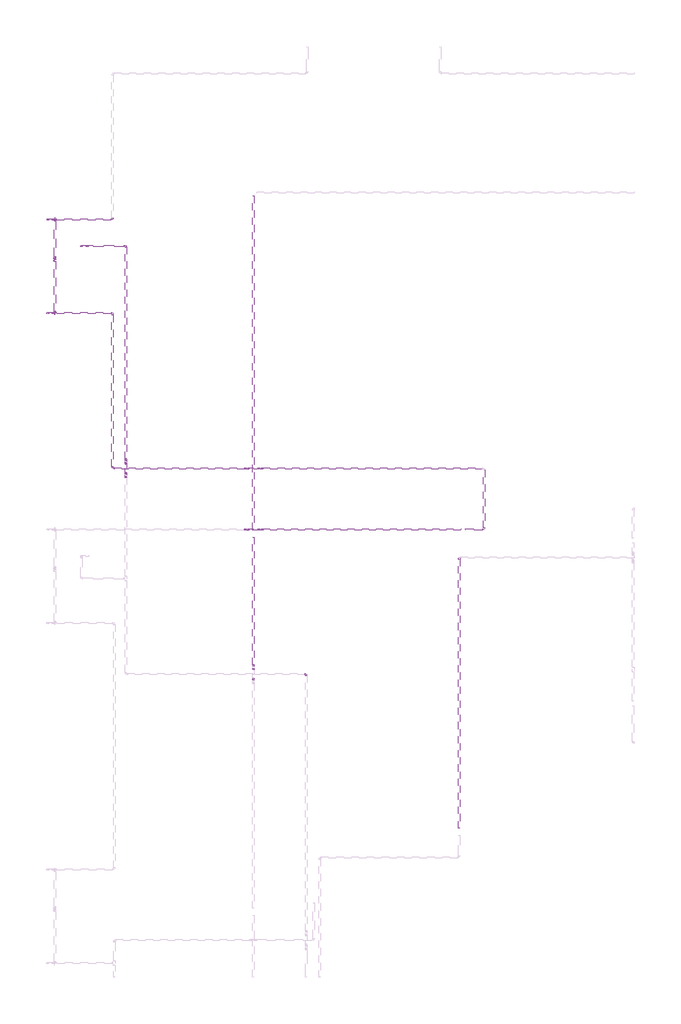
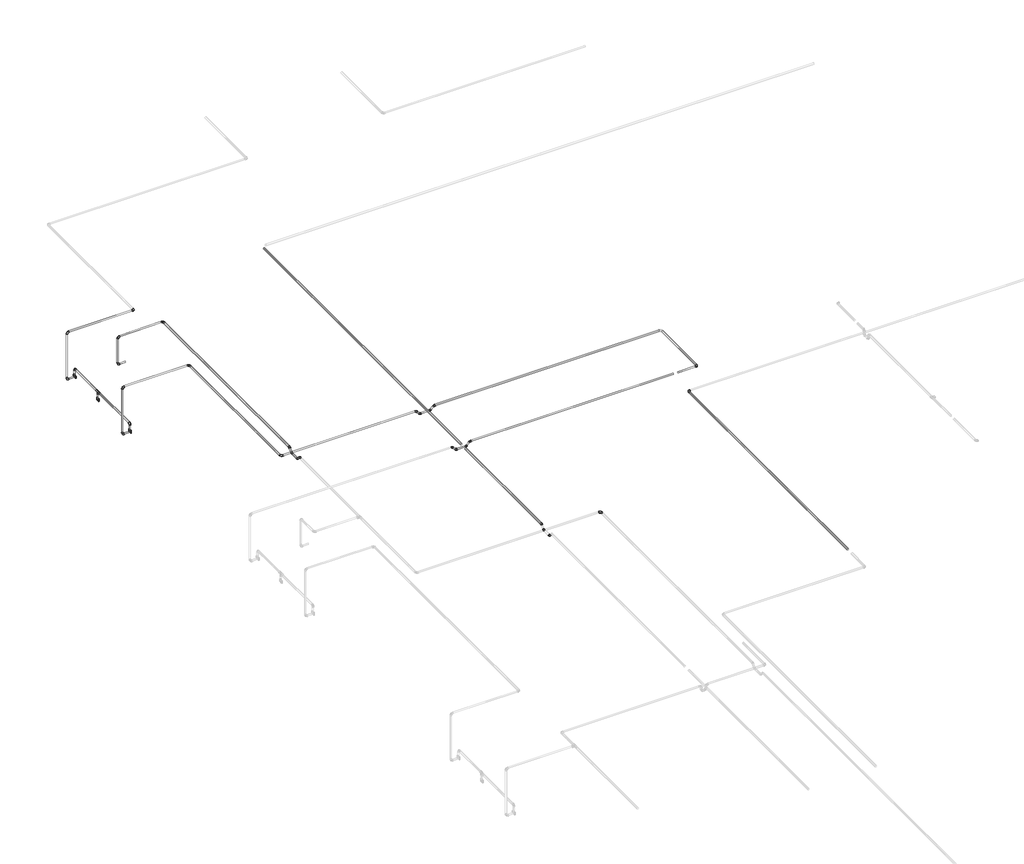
# One storey, part 17 of 40: 33 cable carrier segments, 31 cable carrier fittings, 3 electric appliances.
"""IFC4 building model written with IfcOpenShell, lengths in millimetres."""

from ifc_helpers import new_model, si_unit, point, frame, frame_2d, origin, place, context, project, spatial, circle_curve, trimmed, segment, composite_curve, outline, extrude, transform, mapped, element, save
from ifc_brep_helpers import plane_surface, cylinder_surface, advanced_brep
from components import cable_carrier_fitting_69f1a801, cable_carrier_fitting_8122f9af, cable_carrier_fitting_baf4b435, cable_carrier_fitting_96c62671, cable_carrier_fitting_f3a31543, cable_carrier_fitting_99456837, cable_carrier_fitting_8fd13dfc, electric_appliance_5961a143

model = new_model("IFC4")

# Units and contexts
model_context = context("Model", 3, world=origin())
ifc_project = project(units=[si_unit("LENGTHUNIT", "METRE", prefix="MILLI")], contexts=[model_context])

# Site, building, storey
site = spatial("IfcSite", under=ifc_project)
building = spatial("IfcBuilding", under=site)
storey = spatial("IfcBuildingStorey", under=building, Name="1 этаж", Elevation=0.0)

# Cable carrier fittings
placement = place(None, origin())
cable_carrier_fitting_shape = cable_carrier_fitting_69f1a801(model_context)
element("IfcCableCarrierFitting", 1, ObjectType="ADSK_Поворот_Минимальный размер : Неспецифицируемый", at=placement, inside=storey, context=model_context, shape_type="MappedRepresentation", body=[
    mapped(cable_carrier_fitting_shape, transform((-32867.3240048, 15147.1369864, 3189.9844044), x_axis=(-0.9999999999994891, 0.0, 1.0109368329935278e-06), y_axis=(0.0, -1.0000000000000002, 0.0), z_axis=(1.0109368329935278e-06, 0.0, 0.9999999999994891))),
])
element("IfcCableCarrierFitting", 2, ObjectType="ADSK_Поворот_Минимальный размер : Неспецифицируемый", at=placement, inside=storey, context=model_context, shape_type="MappedRepresentation", body=[
    mapped(cable_carrier_fitting_shape, transform((-38386.5238077, 18424.6370105, 3187.0), x_axis=(0.0, 0.0, 1.0), y_axis=(1.0, 0.0, 0.0), z_axis=(0.0, 1.0, 0.0))),
])
element("IfcCableCarrierFitting", 3, ObjectType="ADSK_Поворот_Минимальный размер : Неспецифицируемый", at=placement, inside=storey, context=model_context, shape_type="MappedRepresentation", body=[
    mapped(cable_carrier_fitting_shape, transform((-38286.3240021, 18424.6370105, 2650.0), x_axis=(0.0, -1.0, 0.0), y_axis=(0.0, 0.0, -1.0), z_axis=(1.0, 0.0, 0.0))),
])
element("IfcCableCarrierFitting", 4, ObjectType="ADSK_Поворот_Минимальный размер : Неспецифицируемый", at=placement, inside=storey, context=model_context, shape_type="MappedRepresentation", body=[
    mapped(cable_carrier_fitting_shape, transform((-38386.5238077, 18424.6370105, 2534.0911237), x_axis=(0.0, 0.0, -1.0), y_axis=(1.0, 0.0, 0.0), z_axis=(0.0, -1.0, 0.0))),
])
element("IfcCableCarrierFitting", 5, ObjectType="ADSK_Поворот_Минимальный размер : Неспецифицируемый", at=placement, inside=storey, context=model_context, shape_type="MappedRepresentation", body=[
    mapped(cable_carrier_fitting_shape, transform((-32530.276993, 15526.1370105, 3187.0), x_axis=(1.0, 0.0, 0.0), y_axis=(0.0, 1.0, 0.0), z_axis=(0.0, 0.0, 1.0))),
])
element("IfcCableCarrierFitting", 6, ObjectType="ADSK_Поворот_Минимальный размер : Неспецифицируемый", at=placement, inside=storey, context=model_context, shape_type="MappedRepresentation", body=[
    mapped(cable_carrier_fitting_shape, transform((-38386.5238077, 19678.6370105, 2534.0911237), x_axis=(0.0, 0.0, -1.0), y_axis=(1.0, 0.0, 0.0), z_axis=(0.0, -1.0, 0.0))),
])
element("IfcCableCarrierFitting", 7, ObjectType="ADSK_Поворот_Минимальный размер : Неспецифицируемый", at=placement, inside=storey, context=model_context, shape_type="MappedRepresentation", body=[
    mapped(cable_carrier_fitting_shape, transform((-38286.3240021, 19678.6370105, 2650.0), x_axis=(0.0, 1.0, 0.0), y_axis=(0.0, 0.0, -1.0), z_axis=(-1.0, 0.0, 0.0))),
])
element("IfcCableCarrierFitting", 8, ObjectType="ADSK_Поворот_Минимальный размер : Неспецифицируемый", at=placement, inside=storey, context=model_context, shape_type="MappedRepresentation", body=[
    mapped(cable_carrier_fitting_shape, transform((-37929.5238077, 19319.6370105, 2797.4861504), x_axis=(-1.0, 0.0, 0.0), y_axis=(0.0, 0.0, 1.0), z_axis=(0.0, 1.0, 0.0))),
])
element("IfcCableCarrierFitting", 9, ObjectType="ADSK_Поворот_Минимальный размер : Неспецифицируемый", at=placement, inside=storey, context=model_context, shape_type="MappedRepresentation", body=[
    mapped(cable_carrier_fitting_shape, transform((-37929.5238077, 19319.6370105, 3180.0), x_axis=(0.0, 0.0, 1.0), y_axis=(0.9999603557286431, 0.00890432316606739, 0.0), z_axis=(-0.00890432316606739, 0.9999603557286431, 0.0))),
])
element("IfcCableCarrierFitting", 10, ObjectType="ADSK_Поворот_Минимальный размер : Неспецифицируемый", at=placement, inside=storey, context=model_context, shape_type="MappedRepresentation", body=[
    mapped(cable_carrier_fitting_shape, transform((-34914.8240021, 13587.1370105, 3180.0), x_axis=(0.0, 1.0, 0.0), y_axis=(-1.0, 0.0, 0.0), z_axis=(0.0, 0.0, 1.0))),
])
element("IfcCableCarrierFitting", 11, ObjectType="ADSK_Поворот_Минимальный размер : Неспецифицируемый", at=placement, inside=storey, context=model_context, shape_type="MappedRepresentation", body=[
    mapped(cable_carrier_fitting_shape, transform((-37510.3240021, 19678.6370105, 3187.0), x_axis=(1.0, 0.0, 0.0), y_axis=(0.0, 1.0, 0.0), z_axis=(0.0, 0.0, 1.0))),
])
element("IfcCableCarrierFitting", 12, ObjectType="ADSK_Поворот_Минимальный размер : Неспецифицируемый", at=placement, inside=storey, context=model_context, shape_type="MappedRepresentation", body=[
    mapped(cable_carrier_fitting_shape, transform((-38386.5238077, 19678.6370105, 3187.0), x_axis=(0.0, 0.0, 1.0), y_axis=(1.0, 0.0, 0.0), z_axis=(0.0, 1.0, 0.0))),
])
element("IfcCableCarrierFitting", 13, ObjectType="ADSK_Поворот_Минимальный размер : Неспецифицируемый", at=placement, inside=storey, context=model_context, shape_type="MappedRepresentation", body=[
    mapped(cable_carrier_fitting_shape, transform((-37510.3240021, 18424.6370105, 3187.0), x_axis=(0.0, 1.0, 0.0), y_axis=(-1.0, 0.0, 0.0), z_axis=(0.0, 0.0, 1.0))),
])
element("IfcCableCarrierFitting", 14, ObjectType="ADSK_Поворот_Минимальный размер : Неспецифицируемый", at=placement, inside=storey, context=model_context, shape_type="MappedRepresentation", body=[
    mapped(cable_carrier_fitting_shape, transform((-37510.3240021, 16343.9228593, 3187.0), x_axis=(0.0, -1.0, 0.0), y_axis=(1.0, 0.0, 0.0), z_axis=(0.0, 0.0, 1.0))),
])
cable_carrier_fitting_2_shape = cable_carrier_fitting_8122f9af(model_context)
element("IfcCableCarrierFitting", 15, ObjectType="ADSK_Поворот_Минимальный размер : Неспецифицируемый", at=placement, inside=storey, context=model_context, shape_type="MappedRepresentation", body=[
    mapped(cable_carrier_fitting_2_shape, transform((-37332.3673182, 16410.4951305, 3130.0), x_axis=(0.0, -0.7071067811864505, -0.7071067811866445), y_axis=(0.0, -0.7071067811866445, 0.7071067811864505), z_axis=(-1.0, 0.0, 0.0))),
])
element("IfcCableCarrierFitting", 16, ObjectType="ADSK_Поворот_Минимальный размер : Неспецифицируемый", at=placement, inside=storey, context=model_context, shape_type="MappedRepresentation", body=[
    mapped(cable_carrier_fitting_2_shape, transform((-37332.3673182, 16277.350588, 3130.0), x_axis=(0.0, -1.0, 0.0), y_axis=(0.0, 0.0, 1.0), z_axis=(-1.0, 0.0, 0.0))),
])
element("IfcCableCarrierFitting", 17, ObjectType="ADSK_Поворот_Минимальный размер : Неспецифицируемый", at=placement, inside=storey, context=model_context, shape_type="MappedRepresentation", body=[
    mapped(cable_carrier_fitting_2_shape, transform((-37332.3673182, 16227.350588, 3180.0), x_axis=(0.0, -0.7071067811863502, 0.7071067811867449), y_axis=(0.0, -0.7071067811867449, -0.7071067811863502), z_axis=(1.0, 0.0, 0.0))),
])
element("IfcCableCarrierFitting", 18, ObjectType="ADSK_Поворот_Минимальный размер : Неспецифицируемый", at=placement, inside=storey, context=model_context, shape_type="MappedRepresentation", body=[
    mapped(cable_carrier_fitting_2_shape, transform((-37332.3673182, 16460.4951305, 3180.0), x_axis=(0.0, 0.7071067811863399, 0.7071067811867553), y_axis=(0.0, 0.7071067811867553, -0.7071067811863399), z_axis=(-1.0, 0.0, 0.0))),
])
element("IfcCableCarrierFitting", 19, ObjectType="ADSK_Поворот_Минимальный размер : Неспецифицируемый", at=placement, inside=storey, context=model_context, shape_type="MappedRepresentation", body=[
    mapped(cable_carrier_fitting_2_shape, transform((-35739.6364475, 15526.1370105, 3187.0), x_axis=(1.0, 0.0, 0.0), y_axis=(0.0, 0.0, -1.0), z_axis=(0.0, 1.0, 0.0))),
])
element("IfcCableCarrierFitting", 20, ObjectType="ADSK_Поворот_Минимальный размер : Неспецифицируемый", at=placement, inside=storey, context=model_context, shape_type="MappedRepresentation", body=[
    mapped(cable_carrier_fitting_2_shape, transform((-35689.6364475, 15526.1370105, 3137.0), x_axis=(0.707106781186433, 0.0, -0.7071067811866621), y_axis=(0.7071067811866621, 0.0, 0.707106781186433), z_axis=(0.0, -1.0, 0.0))),
])
element("IfcCableCarrierFitting", 21, ObjectType="ADSK_Поворот_Минимальный размер : Неспецифицируемый", at=placement, inside=storey, context=model_context, shape_type="MappedRepresentation", body=[
    mapped(cable_carrier_fitting_2_shape, transform((-35556.491905, 15526.1370105, 3137.0), x_axis=(1.0, 0.0, 0.0), y_axis=(0.0, 0.0, 1.0), z_axis=(0.0, -1.0, 0.0))),
])
element("IfcCableCarrierFitting", 22, ObjectType="ADSK_Поворот_Минимальный размер : Неспецифицируемый", at=placement, inside=storey, context=model_context, shape_type="MappedRepresentation", body=[
    mapped(cable_carrier_fitting_2_shape, transform((-35689.6364475, 16343.9228593, 3137.0), x_axis=(0.7071067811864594, 0.0, -0.7071067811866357), y_axis=(0.7071067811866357, 0.0, 0.7071067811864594), z_axis=(0.0, -1.0, 0.0))),
])
element("IfcCableCarrierFitting", 23, ObjectType="ADSK_Поворот_Минимальный размер : Неспецифицируемый", at=placement, inside=storey, context=model_context, shape_type="MappedRepresentation", body=[
    mapped(cable_carrier_fitting_2_shape, transform((-35556.491905, 16343.9228593, 3137.0), x_axis=(1.0, 0.0, 0.0), y_axis=(0.0, 0.0, 1.0), z_axis=(0.0, -1.0, 0.0))),
])
element("IfcCableCarrierFitting", 24, ObjectType="ADSK_Поворот_Минимальный размер : Неспецифицируемый", at=placement, inside=storey, context=model_context, shape_type="MappedRepresentation", body=[
    mapped(cable_carrier_fitting_2_shape, transform((-35506.491905, 15526.1370105, 3187.0), x_axis=(0.7071067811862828, 0.0, 0.7071067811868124), y_axis=(0.7071067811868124, 0.0, -0.7071067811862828), z_axis=(0.0, 1.0, 0.0))),
])
element("IfcCableCarrierFitting", 25, ObjectType="ADSK_Поворот_Минимальный размер : Неспецифицируемый", at=placement, inside=storey, context=model_context, shape_type="MappedRepresentation", body=[
    mapped(cable_carrier_fitting_2_shape, transform((-35506.491905, 16343.9228593, 3187.0), x_axis=(0.7071067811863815, 0.0, 0.7071067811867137), y_axis=(0.7071067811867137, 0.0, -0.7071067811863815), z_axis=(0.0, 1.0, 0.0))),
])
element("IfcCableCarrierFitting", 26, ObjectType="ADSK_Поворот_Минимальный размер : Неспецифицируемый", at=placement, inside=storey, context=model_context, shape_type="MappedRepresentation", body=[
    mapped(cable_carrier_fitting_2_shape, transform((-35739.6364475, 16343.9228593, 3187.0), x_axis=(-0.7071067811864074, 0.0, 0.7071067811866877), y_axis=(-0.7071067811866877, 0.0, -0.7071067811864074), z_axis=(0.0, -1.0, 0.0))),
])
cable_carrier_fitting_3_shape = cable_carrier_fitting_baf4b435(model_context)
element("IfcCableCarrierFitting", 27, ObjectType="ADSK_Поворот_Минимальный размер : Неспецифицируемый", at=placement, inside=storey, context=model_context, shape_type="MappedRepresentation", body=[
    mapped(cable_carrier_fitting_3_shape, transform((-35623.0641762, 13520.5071802, 3140.2053425), x_axis=(0.0, 0.707106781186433, -0.7071067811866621), y_axis=(0.0, 0.7071067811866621, 0.707106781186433), z_axis=(1.0, 0.0, 0.0))),
])
cable_carrier_fitting_4_shape = cable_carrier_fitting_96c62671(model_context)
element("IfcCableCarrierFitting", 28, ObjectType="ADSK_Поворот_Минимальный размер : Неспецифицируемый", at=placement, inside=storey, context=model_context, shape_type="MappedRepresentation", body=[
    mapped(cable_carrier_fitting_4_shape, transform((-35623.0641762, 13653.709005, 3139.8212598), x_axis=(0.0, 0.9999958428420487, -0.0028834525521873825), y_axis=(0.0, 0.0028834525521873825, 0.9999958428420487), z_axis=(1.0, 0.0, 0.0))),
])
cable_carrier_fitting_5_shape = cable_carrier_fitting_f3a31543(model_context)
element("IfcCableCarrierFitting", 29, ObjectType="ADSK_Поворот_Минимальный размер : Неспецифицируемый", at=placement, inside=storey, context=model_context, shape_type="MappedRepresentation", body=[
    mapped(cable_carrier_fitting_5_shape, transform((-35623.0641762, 13703.709005, 3189.87735), x_axis=(0.0, 0.7067102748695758, 0.7075030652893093), y_axis=(0.0, 0.7075030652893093, -0.7067102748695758), z_axis=(-1.0, 0.0, 0.0))),
])
cable_carrier_fitting_6_shape = cable_carrier_fitting_99456837(model_context)
element("IfcCableCarrierFitting", 30, ObjectType="ADSK_Поворот_Минимальный размер : Неспецифицируемый", at=placement, inside=storey, context=model_context, shape_type="MappedRepresentation", body=[
    mapped(cable_carrier_fitting_6_shape, transform((-37332.3673182, 19324.9544957, 3180.0), x_axis=(0.0, 1.0, 0.0), y_axis=(-1.0, 0.0, 0.0), z_axis=(0.0, 0.0, 1.0))),
])
cable_carrier_fitting_7_shape = cable_carrier_fitting_8fd13dfc(model_context)
element("IfcCableCarrierFitting", 31, ObjectType="ADSK_Тройник : ПВХ", at=placement, inside=storey, context=model_context, shape_type="MappedRepresentation", body=[
    mapped(cable_carrier_fitting_7_shape, transform((-38286.3240021, 19149.6370105, 2650.0), x_axis=(0.0, 1.0, 0.0), y_axis=(0.0, 0.0, 1.0), z_axis=(1.0, 0.0, 0.0))),
])

# Cable carrier segments
element("IfcCableCarrierSegment", 32, ObjectType="Гофрированная труба", at=placement, inside=storey, context=model_context, shape_type="SweptSolid", body=[
    extrude(outline(composite_curve([segment(trimmed(circle_curve(frame_2d((3189.9843831, -35623.0641762)), 10.0), [point((3189.9843831, -35633.0641762))], [point((3179.9843831, -35623.0641762))], False, "CARTESIAN"), True, "CONTINUOUS"), segment(trimmed(circle_curve(frame_2d((3189.9843831, -35623.0641762)), 10.0), [point((3179.9843831, -35623.0641762))], [point((3189.9843831, -35613.0641762))], False, "CARTESIAN"), True, "CONTINUOUS"), segment(trimmed(circle_curve(frame_2d((3189.9843831, -35623.0641762)), 10.0), [point((3189.9843831, -35613.0641762))], [point((3199.9843831, -35623.0641762))], False, "CARTESIAN"), True, "CONTINUOUS"), segment(trimmed(circle_curve(frame_2d((3189.9843831, -35623.0641762)), 10.0), [point((3199.9843831, -35623.0641762))], [point((3189.9843831, -35633.0641762))], False, "CARTESIAN"), True, "CONTINUOUS")], self_intersect=False)), frame((0.0, 15516.1370105, 0.0), z_axis=(0.0, 1.0, 0.0), x_axis=(0.0, 0.0, 1.0)), (0.0, 0.0, 1.0), 4477.0),
])
element("IfcCableCarrierSegment", 33, ObjectType="Гофрированная труба", at=placement, inside=storey, context=model_context, shape_type="AdvancedBrep", body=[
    advanced_brep(
    [(-32877.3240048, 15126.1369864, 3189.9844157), (-32867.3239934, 15126.1369864, 3199.9844044), (-32857.3240048, 15126.1369864, 3189.984393), (-32867.3240161, 15126.1369864, 3179.9844044), (-32877.3240048, 11525.4272024, 3189.9844169), (-32867.3240161, 11525.4272024, 3179.9844055), (-32857.3240048, 11525.4272024, 3189.9843942), (-32867.3239934, 11525.4272024, 3199.9844055)],
    [
        (0, 1, circle_curve(frame((-32867.3240048, 15126.1369864, 3189.9844044), z_axis=(0.0, 1.0, 0.0), x_axis=(-0.999999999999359, 0.0, 1.1323425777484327e-06)), 10.0)),
        (1, 2, circle_curve(frame((-32867.3240048, 15126.1369864, 3189.9844044), z_axis=(0.0, 1.0, 0.0), x_axis=(-0.999999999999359, 0.0, 1.1323425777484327e-06)), 10.0)),
        (2, 3, circle_curve(frame((-32867.3240048, 15126.1369864, 3189.9844044), z_axis=(0.0, 1.0, 0.0), x_axis=(-0.999999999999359, 0.0, 1.1323425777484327e-06)), 10.0)),
        (3, 0, circle_curve(frame((-32867.3240048, 15126.1369864, 3189.9844044), z_axis=(0.0, 1.0, 0.0), x_axis=(-0.999999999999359, 0.0, 1.1323425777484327e-06)), 10.0)),
        (4, 5, circle_curve(frame((-32867.3240048, 11525.4272024, 3189.9844044), z_axis=(0.0, -1.0, 0.0), x_axis=(-0.999999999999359, 0.0, 1.1323425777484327e-06)), 10.0)),
        (5, 6, circle_curve(frame((-32867.3240048, 11525.4272024, 3189.9844044), z_axis=(0.0, -1.0, 0.0), x_axis=(-0.999999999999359, 0.0, 1.1323425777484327e-06)), 9.9999988)),
        (6, 7, circle_curve(frame((-32867.3240048, 11525.4272024, 3189.9844044), z_axis=(0.0, -1.0, 0.0), x_axis=(-0.999999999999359, 0.0, 1.1323425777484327e-06)), 10.0)),
        (7, 4, circle_curve(frame((-32867.3240048, 11525.4272024, 3189.9844044), z_axis=(0.0, -1.0, 0.0), x_axis=(-0.999999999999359, 0.0, 1.1323425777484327e-06)), 10.0000012)),
        (0, 4),
        (7, 1),
        (6, 2),
        (5, 3),
    ],
    [
        plane_surface(frame((-32877.3240048, 15126.1369864, 3189.9844044), z_axis=(0.0, 1.0, 0.0), x_axis=(0.0, 0.0, -1.0))),
        plane_surface(frame((-32877.3240048, 11525.4272024, 3189.9844055), z_axis=(0.0, -1.0, 0.0), x_axis=(0.0, 0.0, -1.0))),
        cylinder_surface(frame((-32867.3240048, 15126.1369864, 3189.9844044), z_axis=(0.0, 1.0000000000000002, 0.0), x_axis=(-0.999999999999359, 0.0, 1.1323425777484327e-06)), 10.0),
    ],
    [
        (0, [[1, 2, 3, 4]]),
        (1, [[5, 6, 7, 8]]),
        (2, [[-1, 9, -8, 10]]),
        (2, [[-2, -10, -7, 11]]),
        (2, [[-3, -11, -6, 12]]),
        (2, [[-4, -12, -5, -9]]),
    ],
),
])
element("IfcCableCarrierSegment", 34, ObjectType="Гофрированная труба", at=placement, inside=storey, context=model_context, shape_type="SweptSolid", body=[
    extrude(outline(composite_curve([segment(trimmed(circle_curve(frame_2d((0.0, 10.0)), 10.0), [point((-10.0, 10.0))], [point((0.0, 20.0))], False, "CARTESIAN"), True, "CONTINUOUS"), segment(trimmed(circle_curve(frame_2d((0.0, 10.0)), 10.0), [point((0.0, 20.0))], [point((10.0, 10.0))], False, "CARTESIAN"), True, "CONTINUOUS"), segment(trimmed(circle_curve(frame_2d((0.0, 10.0)), 10.0), [point((10.0, 10.0))], [point((0.0, 0.0))], False, "CARTESIAN"), True, "CONTINUOUS"), segment(trimmed(circle_curve(frame_2d((0.0, 10.0)), 10.0), [point((0.0, 0.0))], [point((-10.0, 10.0))], False, "CARTESIAN"), True, "CONTINUOUS")], self_intersect=False)), frame((-35680.3521762, 15526.1370105, 3127.0), z_axis=(1.0, 0.0, -1.0828671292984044e-12), x_axis=(0.0, 1.0, 0.0)), (0.0, 0.0, 1.0), 114.576),
])
element("IfcCableCarrierSegment", 35, ObjectType="Гофрированная труба", at=placement, inside=storey, context=model_context, shape_type="SweptSolid", body=[
    extrude(outline(composite_curve([segment(trimmed(circle_curve(frame_2d((-38286.3240021, 19149.6370105)), 10.0), [point((-38276.3240021, 19149.6370105))], [point((-38286.3240021, 19139.6370105))], False, "CARTESIAN"), True, "CONTINUOUS"), segment(trimmed(circle_curve(frame_2d((-38286.3240021, 19149.6370105)), 10.0), [point((-38286.3240021, 19139.6370105))], [point((-38296.3240021, 19149.6370105))], False, "CARTESIAN"), True, "CONTINUOUS"), segment(trimmed(circle_curve(frame_2d((-38286.3240021, 19149.6370105)), 10.0), [point((-38296.3240021, 19149.6370105))], [point((-38286.3240021, 19159.6370105))], False, "CARTESIAN"), True, "CONTINUOUS"), segment(trimmed(circle_curve(frame_2d((-38286.3240021, 19149.6370105)), 10.0), [point((-38286.3240021, 19159.6370105))], [point((-38276.3240021, 19149.6370105))], False, "CARTESIAN"), True, "CONTINUOUS")], self_intersect=False)), frame((0.0, 0.0, 2563.1207114), z_axis=(0.0, 0.0, 1.0), x_axis=(1.0, 0.0, 0.0)), (0.0, 0.0, 1.0), 56.8792886),
])
element("IfcCableCarrierSegment", 36, ObjectType="Гофрированная труба", at=placement, inside=storey, context=model_context, shape_type="SweptSolid", body=[
    extrude(outline(composite_curve([segment(trimmed(circle_curve(frame_2d((-38286.3240021, 18424.6370105)), 10.0), [point((-38276.3240021, 18424.6370105))], [point((-38286.3240021, 18414.6370105))], False, "CARTESIAN"), True, "CONTINUOUS"), segment(trimmed(circle_curve(frame_2d((-38286.3240021, 18424.6370105)), 10.0), [point((-38286.3240021, 18414.6370105))], [point((-38296.3240021, 18424.6370105))], False, "CARTESIAN"), True, "CONTINUOUS"), segment(trimmed(circle_curve(frame_2d((-38286.3240021, 18424.6370105)), 10.0), [point((-38296.3240021, 18424.6370105))], [point((-38286.3240021, 18434.6370105))], False, "CARTESIAN"), True, "CONTINUOUS"), segment(trimmed(circle_curve(frame_2d((-38286.3240021, 18424.6370105)), 10.0), [point((-38286.3240021, 18434.6370105))], [point((-38276.3240021, 18424.6370105))], False, "CARTESIAN"), True, "CONTINUOUS")], self_intersect=False)), frame((0.0, 0.0, 2563.1207114), z_axis=(0.0, 0.0, 1.0), x_axis=(1.0, 0.0, 0.0)), (0.0, 0.0, 1.0), 65.8792886),
])
element("IfcCableCarrierSegment", 37, ObjectType="Гофрированная труба", at=placement, inside=storey, context=model_context, shape_type="SweptSolid", body=[
    extrude(outline(composite_curve([segment(trimmed(circle_curve(frame_2d((2650.0, -38286.3240021)), 10.0), [point((2650.0, -38296.3240021))], [point((2640.0, -38286.3240021))], False, "CARTESIAN"), True, "CONTINUOUS"), segment(trimmed(circle_curve(frame_2d((2650.0, -38286.3240021)), 10.0), [point((2640.0, -38286.3240021))], [point((2650.0, -38276.3240021))], False, "CARTESIAN"), True, "CONTINUOUS"), segment(trimmed(circle_curve(frame_2d((2650.0, -38286.3240021)), 10.0), [point((2650.0, -38276.3240021))], [point((2660.0, -38286.3240021))], False, "CARTESIAN"), True, "CONTINUOUS"), segment(trimmed(circle_curve(frame_2d((2650.0, -38286.3240021)), 10.0), [point((2660.0, -38286.3240021))], [point((2650.0, -38296.3240021))], False, "CARTESIAN"), True, "CONTINUOUS")], self_intersect=False)), frame((0.0, 18445.6370105, 0.0), z_axis=(0.0, 1.0, 0.0), x_axis=(0.0, 0.0, 1.0)), (0.0, 0.0, 1.0), 674.0),
])
element("IfcCableCarrierSegment", 38, ObjectType="Гофрированная труба", at=placement, inside=storey, context=model_context, shape_type="SweptSolid", body=[
    extrude(outline(composite_curve([segment(trimmed(circle_curve(frame_2d((-38286.3240021, 19678.6370105)), 10.0), [point((-38276.3240021, 19678.6370105))], [point((-38286.3240021, 19668.6370105))], False, "CARTESIAN"), True, "CONTINUOUS"), segment(trimmed(circle_curve(frame_2d((-38286.3240021, 19678.6370105)), 10.0), [point((-38286.3240021, 19668.6370105))], [point((-38296.3240021, 19678.6370105))], False, "CARTESIAN"), True, "CONTINUOUS"), segment(trimmed(circle_curve(frame_2d((-38286.3240021, 19678.6370105)), 10.0), [point((-38296.3240021, 19678.6370105))], [point((-38286.3240021, 19688.6370105))], False, "CARTESIAN"), True, "CONTINUOUS"), segment(trimmed(circle_curve(frame_2d((-38286.3240021, 19678.6370105)), 10.0), [point((-38286.3240021, 19688.6370105))], [point((-38276.3240021, 19678.6370105))], False, "CARTESIAN"), True, "CONTINUOUS")], self_intersect=False)), frame((0.0, 0.0, 2563.1207114), z_axis=(0.0, 0.0, 1.0), x_axis=(1.0, 0.0, 0.0)), (0.0, 0.0, 1.0), 65.8792886),
])
element("IfcCableCarrierSegment", 39, ObjectType="Гофрированная труба", at=placement, inside=storey, context=model_context, shape_type="SweptSolid", body=[
    extrude(outline(composite_curve([segment(trimmed(circle_curve(frame_2d((2650.0, -38286.3240021)), 10.0), [point((2650.0, -38296.3240021))], [point((2640.0, -38286.3240021))], False, "CARTESIAN"), True, "CONTINUOUS"), segment(trimmed(circle_curve(frame_2d((2650.0, -38286.3240021)), 10.0), [point((2640.0, -38286.3240021))], [point((2650.0, -38276.3240021))], False, "CARTESIAN"), True, "CONTINUOUS"), segment(trimmed(circle_curve(frame_2d((2650.0, -38286.3240021)), 10.0), [point((2650.0, -38276.3240021))], [point((2660.0, -38286.3240021))], False, "CARTESIAN"), True, "CONTINUOUS"), segment(trimmed(circle_curve(frame_2d((2650.0, -38286.3240021)), 10.0), [point((2660.0, -38286.3240021))], [point((2650.0, -38296.3240021))], False, "CARTESIAN"), True, "CONTINUOUS")], self_intersect=False)), frame((0.0, 19179.6370105, 0.0), z_axis=(0.0, 1.0, 0.0), x_axis=(0.0, 0.0, 1.0)), (0.0, 0.0, 1.0), 478.0),
])
element("IfcCableCarrierSegment", 40, ObjectType="Гофрированная труба", at=placement, inside=storey, context=model_context, shape_type="SweptSolid", body=[
    extrude(outline(composite_curve([segment(trimmed(circle_curve(frame_2d((19678.6370105, 3187.0)), 10.0), [point((19688.6370105, 3187.0))], [point((19678.6370105, 3177.0))], False, "CARTESIAN"), True, "CONTINUOUS"), segment(trimmed(circle_curve(frame_2d((19678.6370105, 3187.0)), 10.0), [point((19678.6370105, 3177.0))], [point((19668.6370105, 3187.0))], False, "CARTESIAN"), True, "CONTINUOUS"), segment(trimmed(circle_curve(frame_2d((19678.6370105, 3187.0)), 10.0), [point((19668.6370105, 3187.0))], [point((19678.6370105, 3197.0))], False, "CARTESIAN"), True, "CONTINUOUS"), segment(trimmed(circle_curve(frame_2d((19678.6370105, 3187.0)), 10.0), [point((19678.6370105, 3197.0))], [point((19688.6370105, 3187.0))], False, "CARTESIAN"), True, "CONTINUOUS")], self_intersect=False)), frame((-38365.5238077, 0.0, 0.0), z_axis=(1.0, 0.0, 0.0), x_axis=(0.0, 1.0, 0.0)), (0.0, 0.0, 1.0), 834.1998056),
])
element("IfcCableCarrierSegment", 41, ObjectType="Гофрированная труба", at=placement, inside=storey, context=model_context, shape_type="SweptSolid", body=[
    extrude(outline(composite_curve([segment(trimmed(circle_curve(frame_2d((19678.6370105, 2534.0911237)), 10.0), [point((19668.6370105, 2534.0911237))], [point((19678.6370105, 2544.0911237))], False, "CARTESIAN"), True, "CONTINUOUS"), segment(trimmed(circle_curve(frame_2d((19678.6370105, 2534.0911237)), 10.0), [point((19678.6370105, 2544.0911237))], [point((19688.6370105, 2534.0911237))], False, "CARTESIAN"), True, "CONTINUOUS"), segment(trimmed(circle_curve(frame_2d((19678.6370105, 2534.0911237)), 10.0), [point((19688.6370105, 2534.0911237))], [point((19678.6370105, 2524.0911237))], False, "CARTESIAN"), True, "CONTINUOUS"), segment(trimmed(circle_curve(frame_2d((19678.6370105, 2534.0911237)), 10.0), [point((19678.6370105, 2524.0911237))], [point((19668.6370105, 2534.0911237))], False, "CARTESIAN"), True, "CONTINUOUS")], self_intersect=False)), frame((-38365.5238077, 0.0, 0.0), z_axis=(1.0, 0.0, 0.0), x_axis=(0.0, 1.0, 0.0)), (0.0, 0.0, 1.0), 76.1998056),
])
element("IfcCableCarrierSegment", 42, ObjectType="Гофрированная труба", at=placement, inside=storey, context=model_context, shape_type="SweptSolid", body=[
    extrude(outline(composite_curve([segment(trimmed(circle_curve(frame_2d((-38386.5238077, 19678.6370105)), 10.0), [point((-38396.5238077, 19678.6370105))], [point((-38386.5238077, 19688.6370105))], False, "CARTESIAN"), True, "CONTINUOUS"), segment(trimmed(circle_curve(frame_2d((-38386.5238077, 19678.6370105)), 10.0), [point((-38386.5238077, 19688.6370105))], [point((-38376.5238077, 19678.6370105))], False, "CARTESIAN"), True, "CONTINUOUS"), segment(trimmed(circle_curve(frame_2d((-38386.5238077, 19678.6370105)), 10.0), [point((-38376.5238077, 19678.6370105))], [point((-38386.5238077, 19668.6370105))], False, "CARTESIAN"), True, "CONTINUOUS"), segment(trimmed(circle_curve(frame_2d((-38386.5238077, 19678.6370105)), 10.0), [point((-38386.5238077, 19668.6370105))], [point((-38396.5238077, 19678.6370105))], False, "CARTESIAN"), True, "CONTINUOUS")], self_intersect=False)), frame((0.0, 0.0, 2555.0911237), z_axis=(0.0, 0.0, 1.0), x_axis=(1.0, 0.0, 0.0)), (0.0, 0.0, 1.0), 610.9088763),
])
element("IfcCableCarrierSegment", 43, ObjectType="Гофрированная труба", at=placement, inside=storey, context=model_context, shape_type="SweptSolid", body=[
    extrude(outline(composite_curve([segment(trimmed(circle_curve(frame_2d((18424.6370105, 3187.0)), 10.0), [point((18414.6370105, 3187.0))], [point((18424.6370105, 3197.0))], False, "CARTESIAN"), True, "CONTINUOUS"), segment(trimmed(circle_curve(frame_2d((18424.6370105, 3187.0)), 10.0), [point((18424.6370105, 3197.0))], [point((18434.6370105, 3187.0))], False, "CARTESIAN"), True, "CONTINUOUS"), segment(trimmed(circle_curve(frame_2d((18424.6370105, 3187.0)), 10.0), [point((18434.6370105, 3187.0))], [point((18424.6370105, 3177.0))], False, "CARTESIAN"), True, "CONTINUOUS"), segment(trimmed(circle_curve(frame_2d((18424.6370105, 3187.0)), 10.0), [point((18424.6370105, 3177.0))], [point((18414.6370105, 3187.0))], False, "CARTESIAN"), True, "CONTINUOUS")], self_intersect=False)), frame((-38365.5238077, 0.0, 0.0), z_axis=(1.0, 0.0, 0.0), x_axis=(0.0, 1.0, 0.0)), (0.0, 0.0, 1.0), 834.1998056),
])
element("IfcCableCarrierSegment", 44, ObjectType="Гофрированная труба", at=placement, inside=storey, context=model_context, shape_type="SweptSolid", body=[
    extrude(outline(composite_curve([segment(trimmed(circle_curve(frame_2d((18424.6370105, 2534.0911237)), 10.0), [point((18414.6370105, 2534.0911237))], [point((18424.6370105, 2544.0911237))], False, "CARTESIAN"), True, "CONTINUOUS"), segment(trimmed(circle_curve(frame_2d((18424.6370105, 2534.0911237)), 10.0), [point((18424.6370105, 2544.0911237))], [point((18434.6370105, 2534.0911237))], False, "CARTESIAN"), True, "CONTINUOUS"), segment(trimmed(circle_curve(frame_2d((18424.6370105, 2534.0911237)), 10.0), [point((18434.6370105, 2534.0911237))], [point((18424.6370105, 2524.0911237))], False, "CARTESIAN"), True, "CONTINUOUS"), segment(trimmed(circle_curve(frame_2d((18424.6370105, 2534.0911237)), 10.0), [point((18424.6370105, 2524.0911237))], [point((18414.6370105, 2534.0911237))], False, "CARTESIAN"), True, "CONTINUOUS")], self_intersect=False)), frame((-38365.5238077, 0.0, 0.0), z_axis=(1.0, 0.0, 0.0), x_axis=(0.0, 1.0, 0.0)), (0.0, 0.0, 1.0), 76.1998056),
])
element("IfcCableCarrierSegment", 45, ObjectType="Гофрированная труба", at=placement, inside=storey, context=model_context, shape_type="SweptSolid", body=[
    extrude(outline(composite_curve([segment(trimmed(circle_curve(frame_2d((-38386.5238077, 18424.6370105)), 10.0), [point((-38396.5238077, 18424.6370105))], [point((-38386.5238077, 18434.6370105))], False, "CARTESIAN"), True, "CONTINUOUS"), segment(trimmed(circle_curve(frame_2d((-38386.5238077, 18424.6370105)), 10.0), [point((-38386.5238077, 18434.6370105))], [point((-38376.5238077, 18424.6370105))], False, "CARTESIAN"), True, "CONTINUOUS"), segment(trimmed(circle_curve(frame_2d((-38386.5238077, 18424.6370105)), 10.0), [point((-38376.5238077, 18424.6370105))], [point((-38386.5238077, 18414.6370105))], False, "CARTESIAN"), True, "CONTINUOUS"), segment(trimmed(circle_curve(frame_2d((-38386.5238077, 18424.6370105)), 10.0), [point((-38386.5238077, 18414.6370105))], [point((-38396.5238077, 18424.6370105))], False, "CARTESIAN"), True, "CONTINUOUS")], self_intersect=False)), frame((0.0, 0.0, 2555.0911237), z_axis=(0.0, 0.0, 1.0), x_axis=(1.0, 0.0, 0.0)), (0.0, 0.0, 1.0), 610.9088763),
])
element("IfcCableCarrierSegment", 46, ObjectType="Гофрированная труба", at=placement, inside=storey, context=model_context, shape_type="SweptSolid", body=[
    extrude(outline(composite_curve([segment(trimmed(circle_curve(frame_2d((3187.0, -37510.3240021)), 10.0), [point((3187.0, -37520.3240021))], [point((3177.0, -37510.3240021))], False, "CARTESIAN"), True, "CONTINUOUS"), segment(trimmed(circle_curve(frame_2d((3187.0, -37510.3240021)), 10.0), [point((3177.0, -37510.3240021))], [point((3187.0, -37500.3240021))], False, "CARTESIAN"), True, "CONTINUOUS"), segment(trimmed(circle_curve(frame_2d((3187.0, -37510.3240021)), 10.0), [point((3187.0, -37500.3240021))], [point((3197.0, -37510.3240021))], False, "CARTESIAN"), True, "CONTINUOUS"), segment(trimmed(circle_curve(frame_2d((3187.0, -37510.3240021)), 10.0), [point((3197.0, -37510.3240021))], [point((3187.0, -37520.3240021))], False, "CARTESIAN"), True, "CONTINUOUS")], self_intersect=False)), frame((0.0, 16364.9228593, 0.0), z_axis=(0.0, 1.0, 0.0), x_axis=(0.0, 0.0, 1.0)), (0.0, 0.0, 1.0), 2038.7141512),
])
element("IfcCableCarrierSegment", 47, ObjectType="Гофрированная труба", at=placement, inside=storey, context=model_context, shape_type="SweptSolid", body=[
    extrude(outline(composite_curve([segment(trimmed(circle_curve(frame_2d((15526.1370105, 3187.0)), 10.0), [point((15516.1370105, 3187.0))], [point((15526.1370105, 3197.0))], False, "CARTESIAN"), True, "CONTINUOUS"), segment(trimmed(circle_curve(frame_2d((15526.1370105, 3187.0)), 10.0), [point((15526.1370105, 3197.0))], [point((15536.1370105, 3187.0))], False, "CARTESIAN"), True, "CONTINUOUS"), segment(trimmed(circle_curve(frame_2d((15526.1370105, 3187.0)), 10.0), [point((15536.1370105, 3187.0))], [point((15526.1370105, 3177.0))], False, "CARTESIAN"), True, "CONTINUOUS"), segment(trimmed(circle_curve(frame_2d((15526.1370105, 3187.0)), 10.0), [point((15526.1370105, 3177.0))], [point((15516.1370105, 3187.0))], False, "CARTESIAN"), True, "CONTINUOUS")], self_intersect=False)), frame((-32780.276993, 0.0, 0.0), z_axis=(1.0, 0.0, 0.0), x_axis=(0.0, 1.0, 0.0)), (0.0, 0.0, 1.0), 229.0),
])
element("IfcCableCarrierSegment", 48, ObjectType="Гофрированная труба", at=placement, inside=storey, context=model_context, shape_type="SweptSolid", body=[
    extrude(outline(composite_curve([segment(trimmed(circle_curve(frame_2d((3187.0, -32530.276993)), 10.0), [point((3187.0, -32520.276993))], [point((3197.0, -32530.276993))], False, "CARTESIAN"), True, "CONTINUOUS"), segment(trimmed(circle_curve(frame_2d((3187.0, -32530.276993)), 10.0), [point((3197.0, -32530.276993))], [point((3187.0, -32540.276993))], False, "CARTESIAN"), True, "CONTINUOUS"), segment(trimmed(circle_curve(frame_2d((3187.0, -32530.276993)), 10.0), [point((3187.0, -32540.276993))], [point((3177.0, -32530.276993))], False, "CARTESIAN"), True, "CONTINUOUS"), segment(trimmed(circle_curve(frame_2d((3187.0, -32530.276993)), 10.0), [point((3177.0, -32530.276993))], [point((3187.0, -32520.276993))], False, "CARTESIAN"), True, "CONTINUOUS")], self_intersect=False)), frame((0.0, 15547.1370105, 0.0), z_axis=(0.0, 1.0, 0.0), x_axis=(0.0, 0.0, 1.0)), (0.0, 0.0, 1.0), 775.7858488),
])
element("IfcCableCarrierSegment", 49, ObjectType="Гофрированная труба", at=placement, inside=storey, context=model_context, shape_type="SweptSolid", body=[
    extrude(outline(composite_curve([segment(trimmed(circle_curve(frame_2d((16343.9228593, 3137.0)), 10.0), [point((16333.9228593, 3137.0))], [point((16343.9228593, 3147.0))], False, "CARTESIAN"), True, "CONTINUOUS"), segment(trimmed(circle_curve(frame_2d((16343.9228593, 3137.0)), 10.0), [point((16343.9228593, 3147.0))], [point((16353.9228593, 3137.0))], False, "CARTESIAN"), True, "CONTINUOUS"), segment(trimmed(circle_curve(frame_2d((16343.9228593, 3137.0)), 10.0), [point((16353.9228593, 3137.0))], [point((16343.9228593, 3127.0))], False, "CARTESIAN"), True, "CONTINUOUS"), segment(trimmed(circle_curve(frame_2d((16343.9228593, 3137.0)), 10.0), [point((16343.9228593, 3127.0))], [point((16333.9228593, 3137.0))], False, "CARTESIAN"), True, "CONTINUOUS")], self_intersect=False)), frame((-35680.3521762, 0.0, 0.0), z_axis=(1.0, 0.0, 0.0), x_axis=(0.0, 1.0, 0.0)), (0.0, 0.0, 1.0), 114.576),
])
element("IfcCableCarrierSegment", 50, ObjectType="Гофрированная труба", at=placement, inside=storey, context=model_context, shape_type="SweptSolid", body=[
    extrude(outline(composite_curve([segment(trimmed(circle_curve(frame_2d((0.0, 10.0)), 10.0), [point((9.9999999, 10.0))], [point((0.0, 0.0))], False, "CARTESIAN"), True, "CONTINUOUS"), segment(trimmed(circle_curve(frame_2d((0.0, 10.0)), 10.0), [point((0.0, 0.0))], [point((-10.0, 10.0))], False, "CARTESIAN"), True, "CONTINUOUS"), segment(trimmed(circle_curve(frame_2d((0.0, 10.0)), 10.0), [point((-10.0, 10.0))], [point((0.0, 20.0))], False, "CARTESIAN"), True, "CONTINUOUS"), segment(trimmed(circle_curve(frame_2d((0.0, 10.0)), 10.0), [point((0.0, 20.0))], [point((9.9999999, 10.0))], False, "CARTESIAN"), True, "CONTINUOUS")], self_intersect=False)), frame((-37908.5246402, 19319.8240013, 3190.0), z_axis=(0.9999603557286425, 0.008904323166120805, 0.0), x_axis=(0.008904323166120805, -0.9999603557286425, 2.849276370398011e-12)), (0.0, 0.0, 1.0), 555.0012778),
])
element("IfcCableCarrierSegment", 51, ObjectType="Гофрированная труба", at=placement, inside=storey, context=model_context, shape_type="SweptSolid", body=[
    extrude(outline(composite_curve([segment(trimmed(circle_curve(frame_2d((19319.6370105, 2797.4861504)), 10.0), [point((19329.6370105, 2797.4861504))], [point((19319.6370105, 2787.4861504))], False, "CARTESIAN"), True, "CONTINUOUS"), segment(trimmed(circle_curve(frame_2d((19319.6370105, 2797.4861504)), 10.0), [point((19319.6370105, 2787.4861504))], [point((19309.6370105, 2797.4861504))], False, "CARTESIAN"), True, "CONTINUOUS"), segment(trimmed(circle_curve(frame_2d((19319.6370105, 2797.4861504)), 10.0), [point((19309.6370105, 2797.4861504))], [point((19319.6370105, 2807.4861504))], False, "CARTESIAN"), True, "CONTINUOUS"), segment(trimmed(circle_curve(frame_2d((19319.6370105, 2797.4861504)), 10.0), [point((19319.6370105, 2807.4861504))], [point((19329.6370105, 2797.4861504))], False, "CARTESIAN"), True, "CONTINUOUS")], self_intersect=False)), frame((-37908.5238077, 0.0, 0.0), z_axis=(1.0, 0.0, 0.0), x_axis=(0.0, 1.0, 0.0)), (0.0, 0.0, 1.0), 76.1998056),
])
element("IfcCableCarrierSegment", 52, ObjectType="Гофрированная труба", at=placement, inside=storey, context=model_context, shape_type="SweptSolid", body=[
    extrude(outline(composite_curve([segment(trimmed(circle_curve(frame_2d((-37929.5238077, 19319.6370105)), 10.0), [point((-37939.5238077, 19319.6370105))], [point((-37929.5238077, 19329.6370105))], False, "CARTESIAN"), True, "CONTINUOUS"), segment(trimmed(circle_curve(frame_2d((-37929.5238077, 19319.6370105)), 10.0), [point((-37929.5238077, 19329.6370105))], [point((-37919.5238077, 19319.6370105))], False, "CARTESIAN"), True, "CONTINUOUS"), segment(trimmed(circle_curve(frame_2d((-37929.5238077, 19319.6370105)), 10.0), [point((-37919.5238077, 19319.6370105))], [point((-37929.5238077, 19309.6370105))], False, "CARTESIAN"), True, "CONTINUOUS"), segment(trimmed(circle_curve(frame_2d((-37929.5238077, 19319.6370105)), 10.0), [point((-37929.5238077, 19309.6370105))], [point((-37939.5238077, 19319.6370105))], False, "CARTESIAN"), True, "CONTINUOUS")], self_intersect=False)), frame((0.0, 0.0, 2818.4861504), z_axis=(0.0, 0.0, 1.0), x_axis=(1.0, 0.0, 0.0)), (0.0, 0.0, 1.0), 340.5138496),
])
element("IfcCableCarrierSegment", 53, ObjectType="Гофрированная труба", at=placement, inside=storey, context=model_context, shape_type="SweptSolid", body=[
    extrude(outline(composite_curve([segment(trimmed(circle_curve(frame_2d((0.0, 10.0)), 10.0), [point((0.0, 20.0))], [point((10.0, 10.0))], False, "CARTESIAN"), True, "CONTINUOUS"), segment(trimmed(circle_curve(frame_2d((0.0, 10.0)), 10.0), [point((10.0, 10.0))], [point((0.0, 0.0))], False, "CARTESIAN"), True, "CONTINUOUS"), segment(trimmed(circle_curve(frame_2d((0.0, 10.0)), 10.0), [point((0.0, 0.0))], [point((-10.0, 10.0))], False, "CARTESIAN"), True, "CONTINUOUS"), segment(trimmed(circle_curve(frame_2d((0.0, 10.0)), 10.0), [point((-10.0, 10.0))], [point((0.0, 20.0))], False, "CARTESIAN"), True, "CONTINUOUS")], self_intersect=False)), frame((-35633.0641762, 13712.9991152, 3189.8779283), z_axis=(0.0, 0.9999999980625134, 6.224928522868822e-05), x_axis=(0.0, -6.224928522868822e-05, 0.9999999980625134)), (0.0, 0.0, 1.0), 1710.1378986),
])
element("IfcCableCarrierSegment", 54, ObjectType="Гофрированная труба", at=placement, inside=storey, context=model_context, shape_type="SweptSolid", body=[
    extrude(outline(composite_curve([segment(trimmed(circle_curve(frame_2d((3130.0, -37332.3673182)), 10.0), [point((3130.0, -37342.3673182))], [point((3120.0, -37332.3673182))], False, "CARTESIAN"), True, "CONTINUOUS"), segment(trimmed(circle_curve(frame_2d((3130.0, -37332.3673182)), 10.0), [point((3120.0, -37332.3673182))], [point((3130.0, -37322.3673182))], False, "CARTESIAN"), True, "CONTINUOUS"), segment(trimmed(circle_curve(frame_2d((3130.0, -37332.3673182)), 10.0), [point((3130.0, -37322.3673182))], [point((3140.0, -37332.3673182))], False, "CARTESIAN"), True, "CONTINUOUS"), segment(trimmed(circle_curve(frame_2d((3130.0, -37332.3673182)), 10.0), [point((3140.0, -37332.3673182))], [point((3130.0, -37342.3673182))], False, "CARTESIAN"), True, "CONTINUOUS")], self_intersect=False)), frame((0.0, 16286.6348593, 0.0), z_axis=(0.0, 1.0, 0.0), x_axis=(0.0, 0.0, 1.0)), (0.0, 0.0, 1.0), 114.576),
])
element("IfcCableCarrierSegment", 55, ObjectType="Гофрированная труба", at=placement, inside=storey, context=model_context, shape_type="SweptSolid", body=[
    extrude(outline(composite_curve([segment(trimmed(circle_curve(frame_2d((3180.0, -37332.3673182)), 10.0), [point((3180.0, -37342.3673182))], [point((3170.0, -37332.3673182))], False, "CARTESIAN"), True, "CONTINUOUS"), segment(trimmed(circle_curve(frame_2d((3180.0, -37332.3673182)), 10.0), [point((3170.0, -37332.3673182))], [point((3180.0, -37322.3673182))], False, "CARTESIAN"), True, "CONTINUOUS"), segment(trimmed(circle_curve(frame_2d((3180.0, -37332.3673182)), 10.0), [point((3180.0, -37322.3673182))], [point((3190.0, -37332.3673182))], False, "CARTESIAN"), True, "CONTINUOUS"), segment(trimmed(circle_curve(frame_2d((3180.0, -37332.3673182)), 10.0), [point((3190.0, -37332.3673182))], [point((3180.0, -37342.3673182))], False, "CARTESIAN"), True, "CONTINUOUS")], self_intersect=False)), frame((0.0, 16469.7794018, 0.0), z_axis=(0.0, 1.0, 0.0), x_axis=(0.0, 0.0, 1.0)), (0.0, 0.0, 1.0), 2833.9962075),
])
element("IfcCableCarrierSegment", 56, ObjectType="Гофрированная труба", at=placement, inside=storey, context=model_context, shape_type="SweptSolid", body=[
    extrude(outline(composite_curve([segment(trimmed(circle_curve(frame_2d((0.0, -10.0000001)), 10.0), [point((-10.0, -10.0000001))], [point((0.0, 0.0))], False, "CARTESIAN"), True, "CONTINUOUS"), segment(trimmed(circle_curve(frame_2d((0.0, -10.0000001)), 10.0), [point((0.0, 0.0))], [point((10.0, -10.0000001))], False, "CARTESIAN"), True, "CONTINUOUS"), segment(trimmed(circle_curve(frame_2d((0.0, -10.0000001)), 10.0), [point((10.0, -10.0000001))], [point((0.0, -20.0))], False, "CARTESIAN"), True, "CONTINUOUS"), segment(trimmed(circle_curve(frame_2d((0.0, -10.0000001)), 10.0), [point((0.0, -20.0))], [point((-10.0, -10.0000001))], False, "CARTESIAN"), True, "CONTINUOUS")], self_intersect=False)), frame((-37332.3673182, 16424.1311695, 3129.4939033), z_axis=(0.0, 0.7071067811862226, 0.7071067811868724), x_axis=(1.0, 0.0, 0.0)), (0.0, 0.0, 1.0), 52.1421356),
])
element("IfcCableCarrierSegment", 57, ObjectType="Гофрированная труба", at=placement, inside=storey, context=model_context, shape_type="SweptSolid", body=[
    extrude(outline(composite_curve([segment(trimmed(circle_curve(frame_2d((0.0, 10.0000001)), 10.0), [point((-10.0, 10.0000001))], [point((0.0, 20.0))], False, "CARTESIAN"), True, "CONTINUOUS"), segment(trimmed(circle_curve(frame_2d((0.0, 10.0000001)), 10.0), [point((0.0, 20.0))], [point((10.0, 10.0000001))], False, "CARTESIAN"), True, "CONTINUOUS"), segment(trimmed(circle_curve(frame_2d((0.0, 10.0000001)), 10.0), [point((10.0, 10.0000001))], [point((0.0, 0.0))], False, "CARTESIAN"), True, "CONTINUOUS"), segment(trimmed(circle_curve(frame_2d((0.0, 10.0000001)), 10.0), [point((0.0, 0.0))], [point((-10.0, 10.0000001))], False, "CARTESIAN"), True, "CONTINUOUS")], self_intersect=False)), frame((-37332.3673182, 16263.7145491, 3129.4939033), z_axis=(0.0, -0.7071067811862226, 0.7071067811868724), x_axis=(1.0, 0.0, 0.0)), (0.0, 0.0, 1.0), 52.1421356),
])
element("IfcCableCarrierSegment", 58, ObjectType="Гофрированная труба", at=placement, inside=storey, context=model_context, shape_type="SweptSolid", body=[
    extrude(outline(composite_curve([segment(trimmed(circle_curve(frame_2d((0.0, -10.0)), 10.0), [point((0.0, -20.0))], [point((-10.0000001, -10.0))], False, "CARTESIAN"), True, "CONTINUOUS"), segment(trimmed(circle_curve(frame_2d((0.0, -10.0)), 10.0), [point((-10.0000001, -10.0))], [point((0.0, 0.0))], False, "CARTESIAN"), True, "CONTINUOUS"), segment(trimmed(circle_curve(frame_2d((0.0, -10.0)), 10.0), [point((0.0, 0.0))], [point((10.0, -10.0))], False, "CARTESIAN"), True, "CONTINUOUS"), segment(trimmed(circle_curve(frame_2d((0.0, -10.0)), 10.0), [point((10.0, -10.0))], [point((0.0, -20.0))], False, "CARTESIAN"), True, "CONTINUOUS")], self_intersect=False)), frame((-35696.2014186, 15536.1370105, 3143.5649712), z_axis=(-0.7071067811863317, 0.0, 0.7071067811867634), x_axis=(0.7071067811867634, 0.0, 0.7071067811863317)), (0.0, 0.0, 1.0), 52.1421356),
])
element("IfcCableCarrierSegment", 59, ObjectType="Гофрированная труба", at=placement, inside=storey, context=model_context, shape_type="SweptSolid", body=[
    extrude(outline(composite_curve([segment(trimmed(circle_curve(frame_2d((15526.1370105, 3187.0)), 10.0), [point((15516.1370105, 3187.0))], [point((15526.1370105, 3197.0))], False, "CARTESIAN"), True, "CONTINUOUS"), segment(trimmed(circle_curve(frame_2d((15526.1370105, 3187.0)), 10.0), [point((15526.1370105, 3197.0))], [point((15536.1370105, 3187.0))], False, "CARTESIAN"), True, "CONTINUOUS"), segment(trimmed(circle_curve(frame_2d((15526.1370105, 3187.0)), 10.0), [point((15536.1370105, 3187.0))], [point((15526.1370105, 3177.0))], False, "CARTESIAN"), True, "CONTINUOUS"), segment(trimmed(circle_curve(frame_2d((15526.1370105, 3187.0)), 10.0), [point((15526.1370105, 3177.0))], [point((15516.1370105, 3187.0))], False, "CARTESIAN"), True, "CONTINUOUS")], self_intersect=False)), frame((-35497.2076337, 0.0, 0.0), z_axis=(1.0, 0.0, 0.0), x_axis=(0.0, 1.0, 0.0)), (0.0, 0.0, 1.0), 2651.9688579),
])
element("IfcCableCarrierSegment", 60, ObjectType="Гофрированная труба", at=placement, inside=storey, context=model_context, shape_type="SweptSolid", body=[
    extrude(outline(composite_curve([segment(trimmed(circle_curve(frame_2d((0.0, 10.0)), 10.0), [point((0.0, 0.0))], [point((-10.0, 10.0))], False, "CARTESIAN"), True, "CONTINUOUS"), segment(trimmed(circle_curve(frame_2d((0.0, 10.0)), 10.0), [point((-10.0, 10.0))], [point((0.0, 20.0))], False, "CARTESIAN"), True, "CONTINUOUS"), segment(trimmed(circle_curve(frame_2d((0.0, 10.0)), 10.0), [point((0.0, 20.0))], [point((10.0000001, 10.0))], False, "CARTESIAN"), True, "CONTINUOUS"), segment(trimmed(circle_curve(frame_2d((0.0, 10.0)), 10.0), [point((10.0000001, 10.0))], [point((0.0, 0.0))], False, "CARTESIAN"), True, "CONTINUOUS")], self_intersect=False)), frame((-35549.9269338, 15516.1370105, 3143.5649712), z_axis=(0.7071067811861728, 0.0, 0.7071067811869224), x_axis=(0.7071067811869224, 0.0, -0.7071067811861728)), (0.0, 0.0, 1.0), 52.1421356),
])
element("IfcCableCarrierSegment", 61, ObjectType="Гофрированная труба", at=placement, inside=storey, context=model_context, shape_type="SweptSolid", body=[
    extrude(outline(composite_curve([segment(trimmed(circle_curve(frame_2d((16343.9228593, 3187.0)), 10.0), [point((16353.9228593, 3187.0))], [point((16343.9228593, 3177.0))], False, "CARTESIAN"), True, "CONTINUOUS"), segment(trimmed(circle_curve(frame_2d((16343.9228593, 3187.0)), 10.0), [point((16343.9228593, 3177.0))], [point((16333.9228593, 3187.0))], False, "CARTESIAN"), True, "CONTINUOUS"), segment(trimmed(circle_curve(frame_2d((16343.9228593, 3187.0)), 10.0), [point((16333.9228593, 3187.0))], [point((16343.9228593, 3197.0))], False, "CARTESIAN"), True, "CONTINUOUS"), segment(trimmed(circle_curve(frame_2d((16343.9228593, 3187.0)), 10.0), [point((16343.9228593, 3197.0))], [point((16353.9228593, 3187.0))], False, "CARTESIAN"), True, "CONTINUOUS")], self_intersect=False)), frame((-37489.3240021, 0.0, 0.0), z_axis=(1.0, 0.0, 0.0), x_axis=(0.0, 1.0, 0.0)), (0.0, 0.0, 1.0), 1740.4032834),
])
element("IfcCableCarrierSegment", 62, ObjectType="Гофрированная труба", at=placement, inside=storey, context=model_context, shape_type="SweptSolid", body=[
    extrude(outline(composite_curve([segment(trimmed(circle_curve(frame_2d((0.0, -10.0)), 10.0), [point((0.0, -20.0))], [point((-10.0000001, -10.0))], False, "CARTESIAN"), True, "CONTINUOUS"), segment(trimmed(circle_curve(frame_2d((0.0, -10.0)), 10.0), [point((-10.0000001, -10.0))], [point((0.0, 0.0))], False, "CARTESIAN"), True, "CONTINUOUS"), segment(trimmed(circle_curve(frame_2d((0.0, -10.0)), 10.0), [point((0.0, 0.0))], [point((10.0, -10.0))], False, "CARTESIAN"), True, "CONTINUOUS"), segment(trimmed(circle_curve(frame_2d((0.0, -10.0)), 10.0), [point((10.0, -10.0))], [point((0.0, -20.0))], False, "CARTESIAN"), True, "CONTINUOUS")], self_intersect=False)), frame((-35696.2014186, 16353.9228593, 3143.5649712), z_axis=(-0.7071067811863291, 0.0, 0.7071067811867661), x_axis=(0.7071067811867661, 0.0, 0.7071067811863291)), (0.0, 0.0, 1.0), 52.1421356),
])
element("IfcCableCarrierSegment", 63, ObjectType="Гофрированная труба", at=placement, inside=storey, context=model_context, shape_type="SweptSolid", body=[
    extrude(outline(composite_curve([segment(trimmed(circle_curve(frame_2d((16343.9228593, 3187.0)), 10.0), [point((16333.9228593, 3187.0))], [point((16343.9228593, 3197.0))], False, "CARTESIAN"), True, "CONTINUOUS"), segment(trimmed(circle_curve(frame_2d((16343.9228593, 3187.0)), 10.0), [point((16343.9228593, 3197.0))], [point((16353.9228593, 3187.0))], False, "CARTESIAN"), True, "CONTINUOUS"), segment(trimmed(circle_curve(frame_2d((16343.9228593, 3187.0)), 10.0), [point((16353.9228593, 3187.0))], [point((16343.9228593, 3177.0))], False, "CARTESIAN"), True, "CONTINUOUS"), segment(trimmed(circle_curve(frame_2d((16343.9228593, 3187.0)), 10.0), [point((16343.9228593, 3177.0))], [point((16333.9228593, 3187.0))], False, "CARTESIAN"), True, "CONTINUOUS")], self_intersect=False)), frame((-35497.2076337, 0.0, 0.0), z_axis=(1.0, 0.0, 0.0), x_axis=(0.0, 1.0, 0.0)), (0.0, 0.0, 1.0), 2945.9306407),
])
element("IfcCableCarrierSegment", 64, ObjectType="Гофрированная труба", at=placement, inside=storey, context=model_context, shape_type="SweptSolid", body=[
    extrude(outline(composite_curve([segment(trimmed(circle_curve(frame_2d((0.0, 10.0)), 10.0), [point((0.0, 0.0))], [point((-10.0, 10.0))], False, "CARTESIAN"), True, "CONTINUOUS"), segment(trimmed(circle_curve(frame_2d((0.0, 10.0)), 10.0), [point((-10.0, 10.0))], [point((0.0, 20.0))], False, "CARTESIAN"), True, "CONTINUOUS"), segment(trimmed(circle_curve(frame_2d((0.0, 10.0)), 10.0), [point((0.0, 20.0))], [point((10.0000001, 10.0))], False, "CARTESIAN"), True, "CONTINUOUS"), segment(trimmed(circle_curve(frame_2d((0.0, 10.0)), 10.0), [point((10.0000001, 10.0))], [point((0.0, 0.0))], False, "CARTESIAN"), True, "CONTINUOUS")], self_intersect=False)), frame((-35549.9269338, 16333.9228593, 3143.5649712), z_axis=(0.70710678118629, 0.0, 0.7071067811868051), x_axis=(0.7071067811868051, 0.0, -0.70710678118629)), (0.0, 0.0, 1.0), 52.1421356),
])

# Electric appliances
electric_appliance_shape = electric_appliance_5961a143(model_context)
element("IfcElectricAppliance", 65, ObjectType="RBZ_Извещатель_ОхранныйМагнитоуправляемый _Рубеж_ИО 10220-2(грань) : ИО 10220-2", at=placement, inside=storey, context=model_context, shape_type="MappedRepresentation", body=[
    mapped(electric_appliance_shape, transform((-38289.3240021, 18424.6370105, 2546.0), x_axis=(0.0, -1.0, 0.0), y_axis=(0.0, 0.0, -1.0), z_axis=(1.0, 0.0, 0.0))),
])
element("IfcElectricAppliance", 66, ObjectType="RBZ_Извещатель_ОхранныйМагнитоуправляемый _Рубеж_ИО 10220-2(грань) : ИО 10220-2", at=placement, inside=storey, context=model_context, shape_type="MappedRepresentation", body=[
    mapped(electric_appliance_shape, transform((-38289.3240021, 19678.6370105, 2546.0), x_axis=(0.0, -1.0, 0.0), y_axis=(0.0, 0.0, -1.0), z_axis=(1.0, 0.0, 0.0))),
])
element("IfcElectricAppliance", 67, ObjectType="RBZ_Извещатель_ОхранныйМагнитоуправляемый _Рубеж_ИО 10220-2(грань) : ИО 10220-2", at=placement, inside=storey, context=model_context, shape_type="MappedRepresentation", body=[
    mapped(electric_appliance_shape, transform((-38289.3240021, 19149.6370105, 2546.0), x_axis=(0.0, -1.0, 0.0), y_axis=(0.0, 0.0, -1.0), z_axis=(1.0, 0.0, 0.0))),
])

save(model, "model.ifc")
